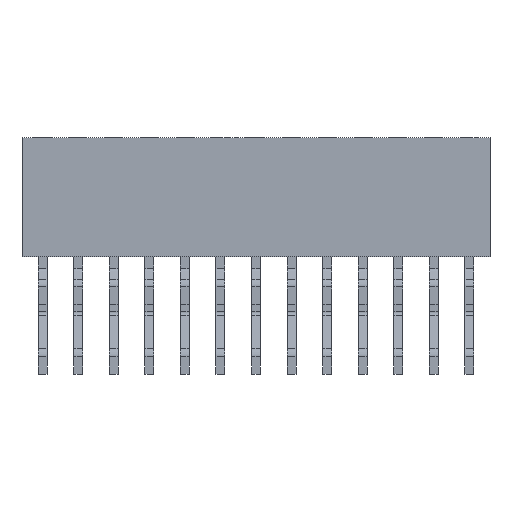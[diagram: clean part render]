
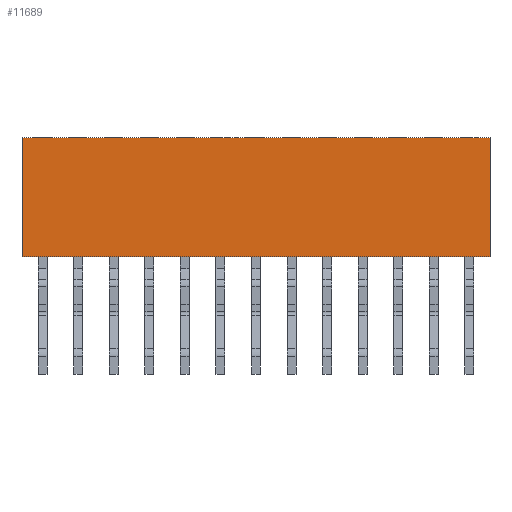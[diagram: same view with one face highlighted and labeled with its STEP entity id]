
A CAD part, top view. The second image highlights one B-rep face of the part: STEP entity #11689.
In plain terms, the highlighted planar face has unit normal (0, 0, 1).
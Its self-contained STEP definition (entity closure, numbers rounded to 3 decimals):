
#915=FACE_OUTER_BOUND('',#1549,.T.);
#1549=EDGE_LOOP('',(#10431,#10432,#10433,#10434));
#1711=LINE('',#15871,#3191);
#2947=LINE('',#18651,#4427);
#2977=LINE('',#18710,#4457);
#2986=LINE('',#18728,#4466);
#3191=VECTOR('',#12785,10.);
#4427=VECTOR('',#15343,10.);
#4457=VECTOR('',#15385,10.);
#4466=VECTOR('',#15396,10.);
#4639=VERTEX_POINT('',#15868);
#4640=VERTEX_POINT('',#15870);
#5523=VERTEX_POINT('',#18650);
#5546=VERTEX_POINT('',#18708);
#5743=EDGE_CURVE('',#4640,#4639,#1711,.T.);
#7155=EDGE_CURVE('',#5523,#4640,#2947,.T.);
#7185=EDGE_CURVE('',#5546,#4639,#2977,.T.);
#7194=EDGE_CURVE('',#5523,#5546,#2986,.T.);
#10431=ORIENTED_EDGE('',*,*,#7185,.F.);
#10432=ORIENTED_EDGE('',*,*,#7194,.F.);
#10433=ORIENTED_EDGE('',*,*,#7155,.T.);
#10434=ORIENTED_EDGE('',*,*,#5743,.T.);
#11115=PLANE('',#12483);
#11689=ADVANCED_FACE('',(#915),#11115,.T.);
#12483=AXIS2_PLACEMENT_3D('',#18727,#15394,#15395);
#12785=DIRECTION('',(0.,1.,0.));
#15343=DIRECTION('',(1.,0.,0.));
#15385=DIRECTION('',(1.,0.,0.));
#15394=DIRECTION('center_axis',(0.,0.,1.));
#15395=DIRECTION('ref_axis',(1.,0.,0.));
#15396=DIRECTION('',(0.,1.,0.));
#15868=CARTESIAN_POINT('',(20.72,8.5,0.));
#15870=CARTESIAN_POINT('',(20.72,0.,0.));
#15871=CARTESIAN_POINT('',(20.72,0.,0.));
#18650=CARTESIAN_POINT('',(-12.7,0.,0.));
#18651=CARTESIAN_POINT('',(-38.1,0.,0.));
#18708=CARTESIAN_POINT('',(-12.7,8.5,0.));
#18710=CARTESIAN_POINT('',(-10.16,8.5,0.));
#18727=CARTESIAN_POINT('Origin',(-38.1,0.,0.));
#18728=CARTESIAN_POINT('',(-12.7,0.,0.));
